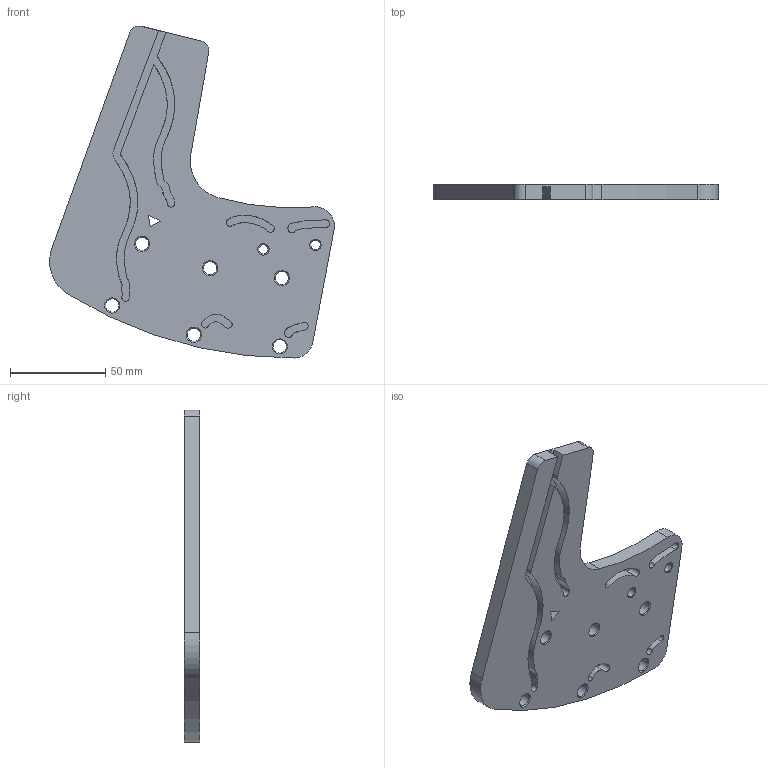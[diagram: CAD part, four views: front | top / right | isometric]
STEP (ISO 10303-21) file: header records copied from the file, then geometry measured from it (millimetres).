
FILE_DESCRIPTION(/* description */ (''),/* implementation_level */ '2;1');
FILE_NAME(/* name */ 'GETOUT_STAVE_89-SX.stp',/* time_stamp */ '2018-10-15T10:05:53+02:00',/* author */ (''),/* organization */ (''),/* preprocessor_version */ 'ST-DEVELOPER v16.7',/* originating_system */ 'SIEMENS PLM Software NX 12.0',/* authorisation */ '');
FILE_SCHEMA (('AP203_CONFIGURATION_CONTROLLED_3D_DESIGN_OF_MECHANICAL_PARTS_AND_ASSEMBLIES_MIM_LF { 1 0 10303 403 2 1 2}'));
Length unit declared in the file: millimetre
Products named in the file (1): turc3FB8140Bmnzb
Bounding box: 149.83 x 8 x 174.6 mm (x, y, z)
Volume: 106546.2 mm3; surface area: 39124.8 mm2
Topology: 1 solids, 1 shells, 307 faces, 794 edges, 524 vertices
Faces by surface type: plane 207, extrusion 55, cylinder 29, cone 16
Full cylindrical faces by diameter (mm): 5 x2, 7 x6
Entity records: 12118 total; most frequent: CARTESIAN_POINT 5350, ORIENTED_EDGE 1540, DIRECTION 974, EDGE_CURVE 770, VERTEX_POINT 524, B_SPLINE_CURVE_WITH_KNOTS 486, EDGE_LOOP 384, AXIS2_PLACEMENT_3D 327
